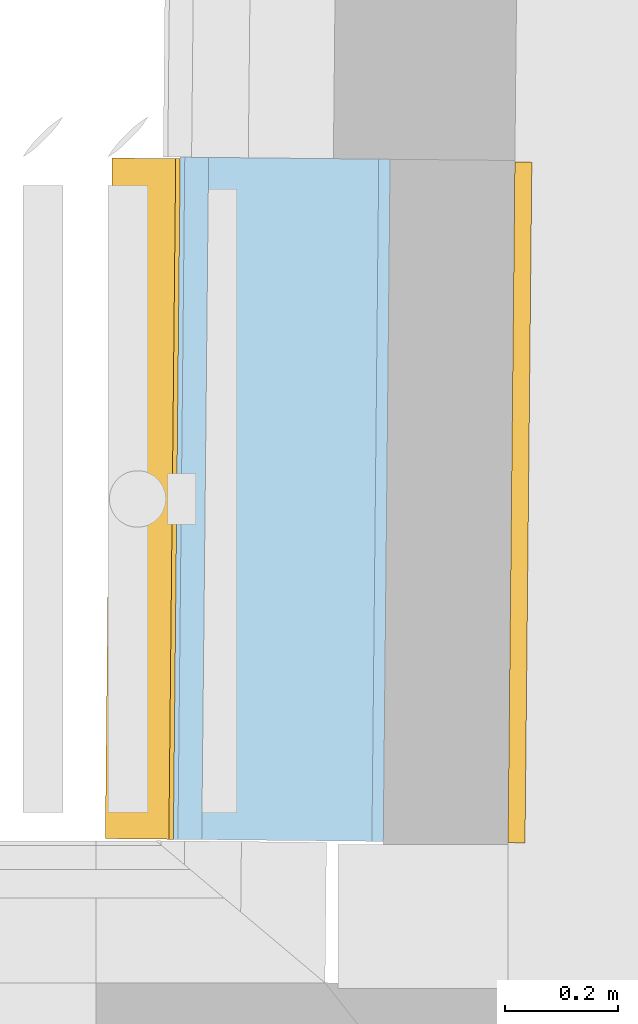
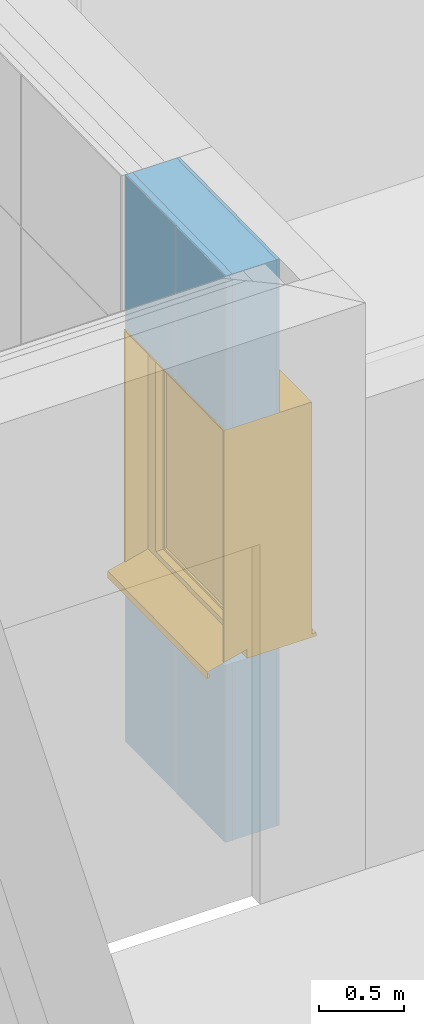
# One storey, part 131 of 418: 1 window, 2 openings, 1 element without a shape of its own, plus 4 elements that do not belong to this part.
"""IFC2X3 building model written with IfcOpenShell, lengths in millimetres."""

import ifcopenshell
import ifcopenshell.guid

model = None  # the IFC model being written
_history = None  # IfcOwnerHistory: only IFC2X3 demands one
_inside = {}  # id of a spatial element -> (the spatial element, [elements in it])
_under = {}  # id of a project, library or spatial element -> (it, [spatial elements below it])
_declared = {}  # id of a project -> (the project, [libraries it declares])
_typed = {}  # id of a type object -> (the type object, [elements of that type])
_made_of = {}  # id of a material, layer set ... -> (it, [elements and type objects made of it])


def new_model(schema):
    """Start an empty IFC model of exactly this schema.

    Asked for "IFC4X3", IfcOpenShell would pick the latest addendum, in which some entities
    have other attributes; the version numbers below select the first issue.
    IFC2X3 requires an IfcOwnerHistory on every rooted entity: one is made here for all.
    """
    global model, _history
    if schema == "IFC4X3":
        model = ifcopenshell.file(schema_version=(4, 3, 0, 0))
    else:
        model = ifcopenshell.file(schema=schema)
    _inside.clear()
    _under.clear()
    _declared.clear()
    _typed.clear()
    _made_of.clear()
    _history = None
    if model.schema == "IFC2X3":
        org = make("IfcOrganization", Name="unknown")
        user = make(
            "IfcPersonAndOrganization",
            ThePerson=make("IfcPerson", FamilyName="unknown"),
            TheOrganization=org,
        )
        app = make(
            "IfcApplication",
            ApplicationDeveloper=org,
            Version="unknown",
            ApplicationFullName="unknown",
            ApplicationIdentifier="unknown",
        )
        _history = make(
            "IfcOwnerHistory",
            OwningUser=user,
            OwningApplication=app,
            ChangeAction="ADDED",
            CreationDate=0,
        )
    return model


def make(cls, **values):
    """One entity of the class cls with the attributes given. An attribute that is None is left unset."""
    return model.create_entity(
        cls, **{name: value for name, value in values.items() if value is not None}
    )


def entity(cls, *values):
    """Any entity or typed value of the class cls, its attributes in the order of the schema. None: left unset."""
    e = model.create_entity(cls)
    for i, value in enumerate(values):
        if value is not None:
            e[i] = value
    return e


def rooted(cls, **values):
    """An entity with a GlobalId (a new one), such as an element, a storey or a relation."""
    return make(cls, GlobalId=ifcopenshell.guid.new(), OwnerHistory=_history, **values)


def si_unit(unit_type, name, prefix=None):
    """IfcSIUnit, for example si_unit("LENGTHUNIT", "METRE", prefix="MILLI")."""
    return make("IfcSIUnit", UnitType=unit_type, Prefix=prefix, Name=name)


def converted_unit(unit_type, name, factor, base, dimensions=None, offset=None):
    """IfcConversionBasedUnit, such as the inch: factor (a typed value) times the base unit."""
    return make(
        "IfcConversionBasedUnit"
        if offset is None
        else "IfcConversionBasedUnitWithOffset",
        ConversionOffset=offset,
        Dimensions=None
        if dimensions is None
        else entity("IfcDimensionalExponents", *dimensions),
        UnitType=unit_type,
        Name=name,
        ConversionFactor=make(
            "IfcMeasureWithUnit", ValueComponent=factor, UnitComponent=base
        ),
    )


def derived_unit(unit_type, elements):
    """IfcDerivedUnit: a product of units, each with its exponent."""
    return make(
        "IfcDerivedUnit",
        Elements=[
            make("IfcDerivedUnitElement", Unit=unit, Exponent=power)
            for unit, power in elements
        ],
        UnitType=unit_type,
    )


def money_unit(currency):
    """IfcMonetaryUnit."""
    return make("IfcMonetaryUnit", Currency=currency)


def assignment(units):
    """IfcUnitAssignment: the units of a project."""
    return None if units is None else make("IfcUnitAssignment", Units=units)


def point(xyz):
    """IfcCartesianPoint."""
    return None if xyz is None else make("IfcCartesianPoint", Coordinates=xyz)


def direction(xyz):
    """IfcDirection."""
    return None if xyz is None else make("IfcDirection", DirectionRatios=xyz)


def frame(location, z_axis=None, x_axis=None):
    """IfcAxis2Placement3D, a coordinate frame: its origin and axes. An axis left out is left unset."""
    return make(
        "IfcAxis2Placement3D",
        Location=point(location),
        Axis=direction(z_axis),
        RefDirection=direction(x_axis),
    )


def frame_2d(location, x_axis=None):
    """IfcAxis2Placement2D, a coordinate frame in the plane: its origin and x axis."""
    return make(
        "IfcAxis2Placement2D", Location=point(location), RefDirection=direction(x_axis)
    )


def origin_with_axes():
    """The frame at (0, 0, 0) with the z axis (0, 0, 1) and the x axis (1, 0, 0) written out."""
    return frame((0.0, 0.0, 0.0), z_axis=(0.0, 0.0, 1.0), x_axis=(1.0, 0.0, 0.0))


def origin_2d_with_axis():
    """The frame at (0, 0) in the plane with the x axis (1, 0) written out."""
    return frame_2d((0.0, 0.0), x_axis=(1.0, 0.0))


def place(relative_to, where):
    """IfcLocalPlacement: puts the frame where relative to a parent placement (None: the world)."""
    return make(
        "IfcLocalPlacement", PlacementRelTo=relative_to, RelativePlacement=where
    )


def context(
    kind, dimensions, precision=None, world=None, true_north=None, identifier=None
):
    """IfcGeometricRepresentationContext, for example the 3D "Model" context."""
    return make(
        "IfcGeometricRepresentationContext",
        ContextIdentifier=identifier,
        ContextType=kind,
        CoordinateSpaceDimension=dimensions,
        Precision=precision,
        WorldCoordinateSystem=world,
        TrueNorth=true_north,
    )


def subcontext(parent, identifier, kind, view, scale=None):
    """IfcGeometricRepresentationSubContext, for example "Body" below "Model"."""
    return make(
        "IfcGeometricRepresentationSubContext",
        ContextIdentifier=identifier,
        ContextType=kind,
        ParentContext=parent,
        TargetScale=scale,
        TargetView=view,
    )


def project(units=None, contexts=None):
    """IfcProject with its units and contexts."""
    return rooted(
        "IfcProject",
        Name="project",
        RepresentationContexts=contexts,
        UnitsInContext=assignment(units),
    )


def spatial(cls, under=None, at=None, **own):
    """A site, building, storey or space (cls), placed at a placement, below another one or the project."""
    s = rooted(cls, ObjectPlacement=at, **own)
    if under is not None:
        _under.setdefault(under.id(), (under, []))[1].append(s)
    return s


def polyline(points):
    """IfcPolyline through the points."""
    return make("IfcPolyline", Points=[point(p) for p in points])


def profile(cls, at=None, kind="AREA", **sizes):
    """A parametric profile (cls). Its sizes go by their IFC names, for example OverallWidth=200.0."""
    return make(cls, ProfileType=kind, Position=at, **sizes)


def rectangle(**sizes):
    """IfcRectangleProfileDef."""
    return profile("IfcRectangleProfileDef", **sizes)


def outline(outer, holes=None, kind="AREA"):
    """IfcArbitraryClosedProfileDef: a profile drawn as a closed curve; with holes, ...WithVoids."""
    if holes is None:
        return make("IfcArbitraryClosedProfileDef", ProfileType=kind, OuterCurve=outer)
    return make(
        "IfcArbitraryProfileDefWithVoids",
        ProfileType=kind,
        OuterCurve=outer,
        InnerCurves=holes,
    )


def extrude(swept, where, along, depth):
    """IfcExtrudedAreaSolid: the profile swept, set in the frame where, extruded along a direction by depth."""
    return make(
        "IfcExtrudedAreaSolid",
        SweptArea=swept,
        Position=where,
        ExtrudedDirection=direction(along),
        Depth=depth,
    )


def faces_of(points, faces, orient=None, outer=None):
    """IfcFace entities. A face is a list of loops; a loop is a list of indices into points, from 0.

    orient and outer hold one flag for each loop. By default every Orientation is true, the
    first loop of a face is its IfcFaceOuterBound and the others are IfcFaceBound.
    """
    made = []
    for i, loops in enumerate(faces):
        bounds = []
        for j, loop in enumerate(loops):
            is_outer = j == 0 if outer is None else outer[i][j]
            bounds.append(
                make(
                    "IfcFaceOuterBound" if is_outer else "IfcFaceBound",
                    Bound=make("IfcPolyLoop", Polygon=[points[k] for k in loop]),
                    Orientation=True if orient is None else orient[i][j],
                )
            )
        made.append(make("IfcFace", Bounds=bounds))
    return made


def open_shell(faces, orient=None, outer=None):
    """The faces of one IfcOpenShell. surface_model builds it on its shared points."""
    return ("IfcOpenShell", faces, orient, outer)


def faceted_brep(points, faces, orient=None, outer=None, voids=None):
    """IfcFacetedBrep: a solid bounded by flat faces; with voids (closed shells), ...WithVoids."""
    shared = [point(p) for p in points]
    hull = make("IfcClosedShell", CfsFaces=faces_of(shared, faces, orient, outer))
    if voids is None:
        return make("IfcFacetedBrep", Outer=hull)
    return make(
        "IfcFacetedBrepWithVoids",
        Outer=hull,
        Voids=[
            make(cls, CfsFaces=faces_of(shared, fs, o, b)) for cls, fs, o, b in voids
        ],
    )


def surface_model(cls, points, shells):
    """IfcFaceBasedSurfaceModel or IfcShellBasedSurfaceModel (cls): surfaces that need not close."""
    shared = [point(p) for p in points]
    made = [make(c, CfsFaces=faces_of(shared, fs, o, b)) for c, fs, o, b in shells]
    if cls == "IfcFaceBasedSurfaceModel":
        return make(cls, FbsmFaces=made)
    return make(cls, SbsmBoundary=made)


def shape(context_of_items, identifier, shape_type, items):
    """IfcShapeRepresentation: the items that make up one representation, for example the "Body"."""
    return make(
        "IfcShapeRepresentation",
        ContextOfItems=context_of_items,
        RepresentationIdentifier=identifier,
        RepresentationType=shape_type,
        Items=items,
    )


def material(Name=None, Category=None):
    """IfcMaterial."""
    return make("IfcMaterial", Name=Name, Category=Category)


def made_of(thing, what):
    """Note that an element or type object is made of a material, layer set ...; save() writes the relation."""
    if what is not None:
        _made_of.setdefault(what.id(), (what, []))[1].append(thing)
    return thing


def type_object(cls, material=None, **own):
    """A type object (cls), such as IfcWallType, which elements share."""
    return made_of(rooted(cls, **own), material)


def element(
    cls,
    number,
    at=None,
    inside=None,
    cuts=None,
    type_object=None,
    material=None,
    context=None,
    identifier="Body",
    shape_type=None,
    held_by="IfcProductDefinitionShape",
    body=None,
    shapes=None,
    **own,
):
    """One element of the class cls, such as IfcWall. Its Tag is "e" and its number.

    at: its placement. inside: the storey or other place that contains it. cuts: it is an
    opening in that element (IfcRelVoidsElement). A single representation is given by context,
    identifier, shape_type and body (its items); several are given by shapes. held_by: the class
    of the entity that holds the representations. save() writes the other relations.
    """
    e = rooted(cls, Tag="e%d" % number, ObjectPlacement=at, **own)
    if body is not None:
        shapes = [shape(context, identifier, shape_type, body)]
    if shapes is not None:
        e.Representation = make(held_by, Representations=shapes)
    if inside is not None:
        _inside.setdefault(inside.id(), (inside, []))[1].append(e)
    if cuts is not None:
        rooted(
            "IfcRelVoidsElement", RelatingBuildingElement=cuts, RelatedOpeningElement=e
        )
    if type_object is not None:
        _typed.setdefault(type_object.id(), (type_object, []))[1].append(e)
    return made_of(e, material)


def fill(opening, filler):
    """IfcRelFillsElement: the door or window that sits in an opening."""
    return rooted(
        "IfcRelFillsElement",
        RelatingOpeningElement=opening,
        RelatedBuildingElement=filler,
    )


def aggregate(whole, parts):
    """IfcRelAggregates: a whole, such as a stair, and the parts it consists of."""
    return rooted("IfcRelAggregates", RelatingObject=whole, RelatedObjects=parts)


def save(model, path):
    """Write the relations noted so far, then the file.

    IfcRelAggregates (storeys below a building ...), IfcRelContainedInSpatialStructure (elements
    in a storey), IfcRelDefinesByType, IfcRelAssociatesMaterial and IfcRelDeclares: one each for
    every whole, place, type object, material and project.
    """
    for whole, parts in _under.values():
        aggregate(whole, parts)
    for where, things in _inside.values():
        rooted(
            "IfcRelContainedInSpatialStructure",
            RelatedElements=things,
            RelatingStructure=where,
        )
    for kind, things in _typed.values():
        rooted("IfcRelDefinesByType", RelatedObjects=things, RelatingType=kind)
    for what, things in _made_of.values():
        rooted("IfcRelAssociatesMaterial", RelatedObjects=things, RelatingMaterial=what)
    for by, libraries in _declared.values():
        rooted("IfcRelDeclares", RelatingContext=by, RelatedDefinitions=libraries)
    model.write(path)


model = new_model("IFC2X3")

# Units and contexts
model_context = context("Model", 3, precision=0.01, world=origin_with_axes(), true_north=direction((0.0, 1.0)))
body_context = subcontext(model_context, "Body", "Model", "MODEL_VIEW")
ifc_project = project(units=[si_unit("LENGTHUNIT", "METRE", prefix="MILLI"), si_unit("AREAUNIT", "SQUARE_METRE"), si_unit("VOLUMEUNIT", "CUBIC_METRE"), converted_unit("PLANEANGLEUNIT", "DEGREE", entity("IfcPlaneAngleMeasure", 0.0174532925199), si_unit("PLANEANGLEUNIT", "RADIAN"), dimensions=[0, 0, 0, 0, 0, 0, 0]), si_unit("SOLIDANGLEUNIT", "STERADIAN"), money_unit("EUR"), converted_unit("TIMEUNIT", "Year", entity("IfcTimeMeasure", 31556926.0), si_unit("TIMEUNIT", "SECOND"), dimensions=[0, 0, 1, 0, 0, 0, 0]), si_unit("MASSUNIT", "GRAM", prefix="KILO"), si_unit("THERMODYNAMICTEMPERATUREUNIT", "DEGREE_CELSIUS"), si_unit("LUMINOUSINTENSITYUNIT", "LUMEN"), si_unit("ENERGYUNIT", "JOULE", prefix="MEGA"), derived_unit("THERMALCONDUCTANCEUNIT", [(si_unit("POWERUNIT", "WATT"), 1), (si_unit("LENGTHUNIT", "METRE"), -1), (si_unit("THERMODYNAMICTEMPERATUREUNIT", "KELVIN"), -1)]), derived_unit("SPECIFICHEATCAPACITYUNIT", [(si_unit("ENERGYUNIT", "JOULE"), 1), (si_unit("MASSUNIT", "GRAM", prefix="KILO"), -1), (si_unit("THERMODYNAMICTEMPERATUREUNIT", "KELVIN"), -1)]), derived_unit("MASSDENSITYUNIT", [(si_unit("MASSUNIT", "GRAM", prefix="KILO"), 1), (si_unit("VOLUMEUNIT", "CUBIC_METRE"), -1)])], contexts=[model_context])

# Site, building, storey
site_placement = place(None, origin_with_axes())
site = spatial("IfcSite", under=ifc_project, at=site_placement, Name="Paldiski mnt 245/1, Tallinn, Harjumaa", CompositionType="COMPLEX")
building_placement = place(site_placement, origin_with_axes())
building = spatial("IfcBuilding", under=site, at=building_placement, Name="RKAS Hoone üldnimetus (kasutust iseloomustav) -> IFC Project Manager -> SOLIBRI", CompositionType="ELEMENT")
storey_placement = place(building_placement, origin_with_axes())
storey = spatial("IfcBuildingStorey", under=building, at=storey_placement, Name="Esimene korrus", CompositionType="ELEMENT", Elevation=0.0)

# Window
window_style = type_object("IfcWindowStyle", Name="Window 23", ConstructionType="NOTDEFINED", OperationType="SINGLE_PANEL", ParameterTakesPrecedence=False, Sizeable=False)
wall_placement = place(storey_placement, frame((-59591.3382179, 31601.9729784, 0.0), z_axis=(0.0, 0.0, 1.0), x_axis=(-0.0100812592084, -0.999949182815, 0.0)))
opening_2_placement = place(wall_placement, frame((602.766178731, 0.0, 1280.0), z_axis=(0.0, 0.0, 1.0), x_axis=(1.0, 0.0, 0.0)))
window_placement = place(opening_2_placement, frame((-600.0, 0.0, 0.0), z_axis=(0.0, 0.0, 1.0), x_axis=(1.0, 0.0, 0.0)))
window = element("IfcWindow", 1, at=window_placement, inside=storey, type_object=window_style, Name="A-07", ObjectType="WINDOW", OverallHeight=1700.0, OverallWidth=1200.0, context=body_context, shape_type="SurfaceModel", body=[
    surface_model("IfcShellBasedSurfaceModel", [(1200.0, -221.0, 75.0), (0.0, -221.0, 75.0), (0.0, -221.0, 65.0), (1200.0, -221.0, 65.0), (0.0, -490.0, -7.0), (1200.0, -490.0, -7.0), (0.0, -490.0, -57.0), (1200.0, -490.0, -57.0), (0.0, -470.0, -37.0), (1200.0, -470.0, -37.0)], [open_shell([[[0, 1, 2, 3]], [[3, 2, 4, 5]], [[5, 4, 6, 7]], [[7, 6, 8, 9]]])]),
    faceted_brep([(0.0, -135.0, 0.0), (0.0, -135.0, 25.0), (0.0, 0.0, 25.0), (0.0, 0.0, 0.0), (1200.0, -135.0, 0.0), (1200.0, -135.0, 25.0), (1200.0, 0.0, 25.0), (1200.0, 250.0, 25.0), (0.0, 250.0, 25.0), (0.0, 250.0, 0.0), (1200.0, 250.0, 0.0), (1200.0, 0.0, 0.0)], [[[0, 1, 2, 3]], [[4, 5, 1, 0]], [[1, 5, 6, 7, 8, 2]], [[3, 2, 8, 9]], [[0, 3, 9, 10, 11, 4]], [[11, 6, 5, 4]], [[10, 7, 6, 11]], [[9, 8, 7, 10]]]),
    faceted_brep([(1200.0, -135.0, 25.0), (1200.0, -135.0, 1700.0), (1174.0, -135.0, 1674.0), (1174.0, -135.0, 25.0), (1200.0, 0.0, 25.0), (1200.0, 0.0, 1700.0), (1174.0, 0.0, 1674.0), (1174.0, 0.0, 25.0)], [[[0, 1, 2, 3]], [[4, 5, 1, 0]], [[6, 2, 1, 5]], [[3, 2, 6, 7]], [[7, 4, 0, 3]], [[7, 6, 5, 4]]]),
    faceted_brep([(26.0, -135.0, 25.0), (26.0, -135.0, 1674.0), (0.0, -135.0, 1700.0), (0.0, -135.0, 25.0), (26.0, 0.0, 25.0), (26.0, 0.0, 1674.0), (0.0, 0.0, 1700.0), (0.0, 0.0, 25.0)], [[[0, 1, 2, 3]], [[4, 5, 1, 0]], [[6, 2, 1, 5]], [[3, 2, 6, 7]], [[7, 4, 0, 3]], [[7, 6, 5, 4]]]),
    faceted_brep([(1174.0, -135.0, 1674.0), (26.0, -135.0, 1674.0), (26.0, 0.0, 1674.0), (1174.0, 0.0, 1674.0), (1200.0, -135.0, 1700.0), (0.0, -135.0, 1700.0), (0.0, 0.0, 1700.0), (1200.0, 0.0, 1700.0)], [[[0, 1, 2, 3]], [[0, 4, 5, 1]], [[1, 5, 6, 2]], [[3, 2, 6, 7]], [[4, 0, 3, 7]], [[5, 4, 7, 6]]]),
    faceted_brep([(1200.0, 0.0, 25.0), (1200.0, 0.0, 1700.0), (1174.0, 0.0, 1674.0), (1174.0, 0.0, 25.0), (1200.0, 220.0, 25.0), (1200.0, 220.0, 1700.0), (1174.0, 220.0, 1674.0), (1174.0, 220.0, 25.0)], [[[0, 1, 2, 3]], [[4, 5, 1, 0]], [[5, 6, 2, 1]], [[3, 2, 6, 7]], [[7, 4, 0, 3]], [[7, 6, 5, 4]]]),
    faceted_brep([(26.0, 0.0, 25.0), (26.0, 0.0, 1674.0), (0.0, 0.0, 1700.0), (0.0, 0.0, 25.0), (26.0, 220.0, 25.0), (26.0, 220.0, 1674.0), (0.0, 220.0, 1700.0), (0.0, 220.0, 25.0)], [[[0, 1, 2, 3]], [[4, 5, 1, 0]], [[5, 6, 2, 1]], [[3, 2, 6, 7]], [[7, 4, 0, 3]], [[7, 6, 5, 4]]]),
    faceted_brep([(1200.0, 220.0, 1700.0), (1200.0, 0.0, 1700.0), (1174.0, 0.0, 1674.0), (1174.0, 220.0, 1674.0), (0.0, 220.0, 1700.0), (0.0, 0.0, 1700.0), (26.0, 0.0, 1674.0), (26.0, 220.0, 1674.0)], [[[0, 1, 2, 3]], [[4, 5, 1, 0]], [[1, 5, 6, 2]], [[3, 2, 6, 7]], [[0, 3, 7, 4]], [[7, 6, 5, 4]]]),
    faceted_brep([(1192.0, -370.0, 25.1189591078), (1192.0, -370.0, 1692.0), (1192.0, -220.0, 1692.0), (1192.0, -220.0, 75.0), (1192.0, -221.0, 75.0), (1192.0, -221.0, 65.0), (1200.0, -370.0, 25.1189591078), (1200.0, -370.0, 1700.0), (1200.0, -220.0, 1700.0), (1200.0, -220.0, 75.0), (1200.0, -221.0, 75.0), (1200.0, -221.0, 65.0)], [[[0, 1, 2, 3, 4, 5]], [[6, 7, 1, 0]], [[8, 2, 1, 7]], [[3, 2, 8, 9]], [[3, 9, 10, 4]], [[4, 10, 11, 5]], [[5, 11, 6, 0]], [[11, 10, 9, 8, 7, 6]]]),
    faceted_brep([(0.0, -370.0, 25.1189591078), (0.0, -370.0, 1700.0), (0.0, -220.0, 1700.0), (0.0, -220.0, 75.0), (0.0, -221.0, 75.0), (0.0, -221.0, 65.0), (8.0, -370.0, 25.1189591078), (8.0, -370.0, 1692.0), (8.0, -220.0, 1692.0), (8.0, -220.0, 75.0), (8.0, -221.0, 75.0), (8.0, -221.0, 65.0)], [[[0, 1, 2, 3, 4, 5]], [[6, 7, 1, 0]], [[8, 2, 1, 7]], [[3, 2, 8, 9]], [[3, 9, 10, 4]], [[4, 10, 11, 5]], [[5, 11, 6, 0]], [[11, 10, 9, 8, 7, 6]]]),
    faceted_brep([(1200.0, -220.0, 1700.0), (1200.0, -370.0, 1700.0), (1192.0, -370.0, 1692.0), (1192.0, -220.0, 1692.0), (0.0, -220.0, 1700.0), (0.0, -370.0, 1700.0), (8.0, -370.0, 1692.0), (8.0, -220.0, 1692.0)], [[[0, 1, 2, 3]], [[4, 5, 1, 0]], [[1, 5, 6, 2]], [[3, 2, 6, 7]], [[0, 3, 7, 4]], [[7, 6, 5, 4]]]),
    faceted_brep([(1192.0, -378.0, 22.9776951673), (1192.0, -378.0, 1692.0), (1192.0, -370.0, 1692.0), (1192.0, -370.0, 25.1189591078), (1200.0, -378.0, 22.9776951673), (1200.0, -378.0, 1700.0), (1200.0, -370.0, 1700.0), (1200.0, -370.0, 25.1189591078)], [[[0, 1, 2, 3]], [[4, 5, 1, 0]], [[2, 1, 5, 6]], [[3, 2, 6, 7]], [[7, 4, 0, 3]], [[7, 6, 5, 4]]]),
    faceted_brep([(0.0, -378.0, 22.9776951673), (0.0, -378.0, 1700.0), (0.0, -370.0, 1700.0), (0.0, -370.0, 25.1189591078), (8.0, -378.0, 22.9776951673), (8.0, -378.0, 1692.0), (8.0, -370.0, 1692.0), (8.0, -370.0, 25.1189591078)], [[[0, 1, 2, 3]], [[4, 5, 1, 0]], [[2, 1, 5, 6]], [[3, 2, 6, 7]], [[7, 4, 0, 3]], [[7, 6, 5, 4]]]),
    faceted_brep([(1200.0, -378.0, 1700.0), (1192.0, -378.0, 1692.0), (1192.0, -370.0, 1692.0), (1200.0, -370.0, 1700.0), (0.0, -378.0, 1700.0), (8.0, -378.0, 1692.0), (8.0, -370.0, 1692.0), (0.0, -370.0, 1700.0)], [[[0, 1, 2, 3]], [[0, 4, 5, 1]], [[1, 5, 6, 2]], [[3, 2, 6, 7]], [[4, 0, 3, 7]], [[5, 4, 7, 6]]]),
    faceted_brep([(1100.0, -170.0, 1600.0), (1100.0, -220.0, 1600.0), (1200.0, -220.0, 1600.0), (1200.0, -170.0, 1600.0), (1100.0, -170.0, 100.0), (1100.0, -220.0, 100.0), (1200.0, -220.0, 100.0), (1200.0, -170.0, 100.0)], [[[0, 1, 2, 3]], [[4, 5, 1, 0]], [[2, 1, 5, 6]], [[3, 2, 6, 7]], [[4, 0, 3, 7]], [[7, 6, 5, 4]]]),
    faceted_brep([(100.0, -170.0, 100.0), (100.0, -220.0, 100.0), (0.0, -220.0, 100.0), (0.0, -170.0, 100.0), (100.0, -170.0, 1600.0), (100.0, -220.0, 1600.0), (0.0, -220.0, 1600.0), (0.0, -170.0, 1600.0)], [[[0, 1, 2, 3]], [[4, 5, 1, 0]], [[2, 1, 5, 6]], [[3, 2, 6, 7]], [[4, 0, 3, 7]], [[7, 6, 5, 4]]]),
    faceted_brep([(1100.0, -170.0, 100.0), (1100.0, -220.0, 100.0), (1200.0, -220.0, 100.0), (1200.0, -170.0, 100.0), (100.0, -170.0, 100.0), (100.0, -220.0, 100.0), (0.0, -220.0, 100.0), (0.0, -220.0, 0.0), (1200.0, -220.0, 0.0), (1200.0, -170.0, 0.0), (0.0, -170.0, 0.0), (0.0, -170.0, 100.0)], [[[0, 1, 2, 3]], [[4, 5, 1, 0]], [[2, 1, 5, 6, 7, 8]], [[3, 2, 8, 9]], [[4, 0, 3, 9, 10, 11]], [[11, 6, 5, 4]], [[10, 7, 6, 11]], [[9, 8, 7, 10]]]),
    faceted_brep([(100.0, -170.0, 1600.0), (100.0, -220.0, 1600.0), (0.0, -220.0, 1600.0), (0.0, -170.0, 1600.0), (1100.0, -170.0, 1600.0), (1100.0, -220.0, 1600.0), (1200.0, -220.0, 1600.0), (1200.0, -220.0, 1700.0), (0.0, -220.0, 1700.0), (0.0, -170.0, 1700.0), (1200.0, -170.0, 1700.0), (1200.0, -170.0, 1600.0)], [[[0, 1, 2, 3]], [[4, 5, 1, 0]], [[2, 1, 5, 6, 7, 8]], [[3, 2, 8, 9]], [[4, 0, 3, 9, 10, 11]], [[11, 6, 5, 4]], [[10, 7, 6, 11]], [[9, 8, 7, 10]]]),
    faceted_brep([(1135.0, -135.0, 100.0), (1135.0, -135.0, 1600.0), (1200.0, -135.0, 1600.0), (1200.0, -135.0, 100.0), (1135.0, -170.0, 1600.0), (1135.0, -170.0, 100.0), (1200.0, -170.0, 1600.0), (1200.0, -170.0, 100.0)], [[[0, 1, 2, 3]], [[4, 1, 0, 5]], [[1, 4, 6, 2]], [[2, 6, 7, 3]], [[5, 0, 3, 7]], [[4, 5, 7, 6]]]),
    faceted_brep([(65.0, -170.0, 1600.0), (65.0, -135.0, 1600.0), (0.0, -135.0, 1600.0), (0.0, -170.0, 1600.0), (65.0, -135.0, 100.0), (65.0, -170.0, 100.0), (0.0, -135.0, 100.0), (0.0, -170.0, 100.0)], [[[0, 1, 2, 3]], [[4, 1, 0, 5]], [[1, 4, 6, 2]], [[6, 7, 3, 2]], [[5, 0, 3, 7]], [[4, 5, 7, 6]]]),
    faceted_brep([(65.0, -170.0, 100.0), (65.0, -135.0, 100.0), (0.0, -135.0, 100.0), (0.0, -170.0, 100.0), (65.0, -135.0, 65.0), (65.0, -170.0, 65.0), (1135.0, -135.0, 65.0), (1135.0, -135.0, 100.0), (1200.0, -135.0, 100.0), (1200.0, -135.0, 0.0), (0.0, -135.0, 0.0), (0.0, -170.0, 0.0), (1200.0, -170.0, 0.0), (1200.0, -170.0, 100.0), (1135.0, -170.0, 100.0), (1135.0, -170.0, 65.0)], [[[0, 1, 2, 3]], [[4, 1, 0, 5]], [[6, 7, 8, 9, 10, 2, 1, 4]], [[10, 11, 3, 2]], [[5, 0, 3, 11, 12, 13, 14, 15]], [[6, 4, 5, 15]], [[14, 7, 6, 15]], [[7, 14, 13, 8]], [[8, 13, 12, 9]], [[9, 12, 11, 10]]]),
    faceted_brep([(1135.0, -135.0, 1600.0), (1135.0, -135.0, 1635.0), (65.0, -135.0, 1635.0), (65.0, -135.0, 1600.0), (0.0, -135.0, 1600.0), (0.0, -135.0, 1700.0), (1200.0, -135.0, 1700.0), (1200.0, -135.0, 1600.0), (1135.0, -170.0, 1600.0), (1135.0, -170.0, 1635.0), (65.0, -170.0, 1635.0), (65.0, -170.0, 1600.0), (0.0, -170.0, 1600.0), (0.0, -170.0, 1700.0), (1200.0, -170.0, 1700.0), (1200.0, -170.0, 1600.0)], [[[0, 1, 2, 3, 4, 5, 6, 7]], [[1, 0, 8, 9]], [[2, 1, 9, 10]], [[3, 2, 10, 11]], [[3, 11, 12, 4]], [[4, 12, 13, 5]], [[5, 13, 14, 6]], [[6, 14, 15, 7]], [[8, 0, 7, 15]], [[9, 8, 15, 14, 13, 12, 11, 10]]]),
    faceted_brep([(74.0, -120.0, 877.0), (75.3397459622, -120.0, 882.0), (75.3397459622, -108.0, 882.0), (74.0, -108.0, 877.0), (74.0, -120.0, 823.0), (75.3397459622, -120.0, 818.0), (79.0, -120.0, 814.339745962), (84.0, -120.0, 813.0), (96.0, -120.0, 813.0), (101.0, -120.0, 814.339745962), (104.660254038, -120.0, 818.0), (106.0, -120.0, 823.0), (106.0, -120.0, 877.0), (104.660254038, -120.0, 882.0), (101.0, -120.0, 885.660254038), (96.0, -120.0, 887.0), (84.0, -120.0, 887.0), (79.0, -120.0, 885.660254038), (79.0, -108.0, 885.660254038), (84.0, -108.0, 887.0), (96.0, -108.0, 887.0), (101.0, -108.0, 885.660254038), (104.660254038, -108.0, 882.0), (106.0, -108.0, 877.0), (106.0, -108.0, 823.0), (104.660254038, -108.0, 818.0), (101.0, -108.0, 814.339745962), (96.0, -108.0, 813.0), (84.0, -108.0, 813.0), (79.0, -108.0, 814.339745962), (75.3397459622, -108.0, 818.0), (74.0, -108.0, 823.0)], [[[0, 1, 2, 3]], [[0, 4, 5, 6, 7, 8, 9, 10, 11, 12, 13, 14, 15, 16, 17, 1]], [[1, 17, 18, 2]], [[3, 2, 18, 19, 20, 21, 22, 23, 24, 25, 26, 27, 28, 29, 30, 31]], [[4, 0, 3, 31]], [[5, 4, 31, 30]], [[6, 5, 30, 29]], [[7, 6, 29, 28]], [[8, 7, 28, 27]], [[9, 8, 27, 26]], [[10, 9, 26, 25]], [[11, 10, 25, 24]], [[12, 11, 24, 23]], [[13, 12, 23, 22]], [[14, 13, 22, 21]], [[15, 14, 21, 20]], [[16, 15, 20, 19]], [[17, 16, 19, 18]]]),
    faceted_brep([(90.0, -108.0, 863.5), (96.75, -108.0, 861.691342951), (96.75, -84.0, 861.691342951), (90.0, -84.0, 863.5), (83.25, -108.0, 861.691342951), (78.3086570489, -108.0, 856.75), (76.5, -108.0, 850.0), (78.3086570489, -108.0, 843.25), (83.25, -108.0, 838.308657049), (90.0, -108.0, 836.5), (96.75, -108.0, 838.308657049), (101.691342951, -108.0, 843.25), (103.5, -108.0, 850.0), (101.691342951, -108.0, 856.75), (101.691342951, -84.0, 856.75), (103.5, -84.0, 850.0), (101.691342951, -84.0, 843.25), (96.75, -84.0, 838.308657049), (90.0, -84.0, 836.5), (83.25, -84.0, 838.308657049), (78.3086570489, -84.0, 843.25), (76.5, -84.0, 850.0), (78.3086570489, -84.0, 856.75), (83.25, -84.0, 861.691342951)], [[[0, 1, 2, 3]], [[0, 4, 5, 6, 7, 8, 9, 10, 11, 12, 13, 1]], [[1, 13, 14, 2]], [[3, 2, 14, 15, 16, 17, 18, 19, 20, 21, 22, 23]], [[4, 0, 3, 23]], [[5, 4, 23, 22]], [[6, 5, 22, 21]], [[7, 6, 21, 20]], [[8, 7, 20, 19]], [[9, 8, 19, 18]], [[10, 9, 18, 17]], [[11, 10, 17, 16]], [[12, 11, 16, 15]], [[13, 12, 15, 14]]]),
    faceted_brep([(78.5, -84.0, 743.0), (90.0, -84.0, 740.0), (101.5, -84.0, 743.0), (103.5, -84.0, 746.0), (103.5, -84.0, 850.0), (101.691342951, -84.0, 856.75), (96.75, -84.0, 861.691342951), (90.0, -84.0, 863.5), (83.25, -84.0, 861.691342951), (78.3086570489, -84.0, 856.75), (76.5, -84.0, 850.0), (76.5, -84.0, 746.0), (78.4999999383, -76.0, 743.000000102), (89.9999999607, -76.0, 739.99999961), (101.499999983, -76.0, 743.000000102), (103.500000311, -76.0, 745.999999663), (103.500000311, -76.0, 849.999999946), (101.691343, -76.0, 856.749999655), (96.7499996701, -76.0, 861.691342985), (89.9999999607, -76.0, 863.500000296), (83.2500002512, -76.0, 861.691342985), (78.3086569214, -76.0, 856.749999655), (76.4999996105, -76.0, 849.999999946), (76.4999996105, -76.0, 745.999999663), (80.3625374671, -73.0000004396, 745.614519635), (89.9999999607, -73.0000004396, 743.100398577), (99.6374624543, -73.0000004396, 745.614519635), (100.50000075, -73.0000004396, 746.908326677), (100.50000075, -73.0000004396, 849.605042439), (99.001617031, -73.0000004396, 855.197085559), (95.1970855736, -73.0000004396, 859.001617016), (89.9999999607, -73.0000004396, 860.394172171), (84.8029143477, -73.0000004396, 859.001617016), (80.9983828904, -73.0000004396, 855.197085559), (79.4999991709, -73.0000004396, 849.605042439), (79.4999991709, -73.0000004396, 746.908326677)], [[[0, 1, 2, 3, 4, 5, 6, 7, 8, 9, 10, 11]], [[1, 0, 12, 13]], [[2, 1, 13, 14]], [[3, 2, 14, 15]], [[4, 3, 15, 16]], [[5, 4, 16, 17]], [[6, 5, 17, 18]], [[7, 6, 18, 19]], [[8, 7, 19, 20]], [[9, 8, 20, 21]], [[10, 9, 21, 22]], [[11, 10, 22, 23]], [[0, 11, 23, 12]], [[13, 12, 24, 25]], [[14, 13, 25, 26]], [[15, 14, 26, 27]], [[16, 15, 27, 28]], [[17, 16, 28, 29]], [[18, 17, 29, 30]], [[19, 18, 30, 31]], [[20, 19, 31, 32]], [[21, 20, 32, 33]], [[22, 21, 33, 34]], [[23, 22, 34, 35]], [[12, 23, 35, 24]], [[26, 25, 24, 35, 34, 33, 32, 31, 30, 29, 28, 27]]]),
    faceted_brep([(1085.0, -170.0, 1585.0), (1135.0, -170.0, 1585.0), (1135.0, -155.0, 1585.0), (1085.0, -155.0, 1585.0), (1085.0, -170.0, 115.0), (1135.0, -170.0, 115.0), (1135.0, -155.0, 115.0), (1085.0, -155.0, 115.0)], [[[0, 1, 2, 3]], [[0, 4, 5, 1]], [[1, 5, 6, 2]], [[3, 2, 6, 7]], [[4, 0, 3, 7]], [[5, 4, 7, 6]]]),
    faceted_brep([(115.0, -170.0, 115.0), (65.0, -170.0, 115.0), (65.0, -155.0, 115.0), (115.0, -155.0, 115.0), (115.0, -170.0, 1585.0), (65.0, -170.0, 1585.0), (65.0, -155.0, 1585.0), (115.0, -155.0, 1585.0)], [[[0, 1, 2, 3]], [[0, 4, 5, 1]], [[1, 5, 6, 2]], [[3, 2, 6, 7]], [[4, 0, 3, 7]], [[5, 4, 7, 6]]]),
    faceted_brep([(65.0, -170.0, 65.0), (65.0, -170.0, 115.0), (65.0, -155.0, 115.0), (65.0, -155.0, 65.0), (1135.0, -170.0, 65.0), (1135.0, -170.0, 115.0), (1085.0, -170.0, 115.0), (115.0, -170.0, 115.0), (115.0, -155.0, 115.0), (1085.0, -155.0, 115.0), (1135.0, -155.0, 115.0), (1135.0, -155.0, 65.0)], [[[0, 1, 2, 3]], [[0, 4, 5, 6, 7, 1]], [[1, 7, 8, 2]], [[3, 2, 8, 9, 10, 11]], [[4, 0, 3, 11]], [[5, 4, 11, 10]], [[6, 5, 10, 9]], [[7, 6, 9, 8]]]),
    faceted_brep([(1135.0, -170.0, 1635.0), (1135.0, -170.0, 1585.0), (1135.0, -155.0, 1585.0), (1135.0, -155.0, 1635.0), (65.0, -170.0, 1635.0), (65.0, -170.0, 1585.0), (115.0, -170.0, 1585.0), (1085.0, -170.0, 1585.0), (1085.0, -155.0, 1585.0), (115.0, -155.0, 1585.0), (65.0, -155.0, 1585.0), (65.0, -155.0, 1635.0)], [[[0, 1, 2, 3]], [[0, 4, 5, 6, 7, 1]], [[1, 7, 8, 2]], [[3, 2, 8, 9, 10, 11]], [[4, 0, 3, 11]], [[5, 4, 11, 10]], [[6, 5, 10, 9]], [[7, 6, 9, 8]]]),
    faceted_brep([(1085.0, -155.0, 1585.0), (1135.0, -155.0, 1585.0), (1135.0, -120.0, 1585.0), (1085.0, -120.0, 1585.0), (1085.0, -155.0, 115.0), (1135.0, -155.0, 115.0), (1135.0, -120.0, 115.0), (1085.0, -120.0, 115.0)], [[[0, 1, 2, 3]], [[0, 4, 5, 1]], [[1, 5, 6, 2]], [[3, 2, 6, 7]], [[4, 0, 3, 7]], [[5, 4, 7, 6]]]),
    faceted_brep([(115.0, -155.0, 115.0), (65.0, -155.0, 115.0), (65.0, -120.0, 115.0), (115.0, -120.0, 115.0), (115.0, -155.0, 1585.0), (65.0, -155.0, 1585.0), (65.0, -120.0, 1585.0), (115.0, -120.0, 1585.0)], [[[0, 1, 2, 3]], [[0, 4, 5, 1]], [[1, 5, 6, 2]], [[3, 2, 6, 7]], [[4, 0, 3, 7]], [[5, 4, 7, 6]]]),
    faceted_brep([(65.0, -155.0, 65.0), (65.0, -155.0, 115.0), (65.0, -120.0, 115.0), (65.0, -120.0, 65.0), (1135.0, -155.0, 65.0), (1135.0, -155.0, 115.0), (1085.0, -155.0, 115.0), (115.0, -155.0, 115.0), (115.0, -120.0, 115.0), (1085.0, -120.0, 115.0), (1135.0, -120.0, 115.0), (1135.0, -120.0, 65.0)], [[[0, 1, 2, 3]], [[0, 4, 5, 6, 7, 1]], [[1, 7, 8, 2]], [[3, 2, 8, 9, 10, 11]], [[4, 0, 3, 11]], [[5, 4, 11, 10]], [[6, 5, 10, 9]], [[7, 6, 9, 8]]]),
    faceted_brep([(1135.0, -155.0, 1635.0), (1135.0, -155.0, 1585.0), (1135.0, -120.0, 1585.0), (1135.0, -120.0, 1635.0), (65.0, -155.0, 1635.0), (65.0, -155.0, 1585.0), (115.0, -155.0, 1585.0), (1085.0, -155.0, 1585.0), (1085.0, -120.0, 1585.0), (115.0, -120.0, 1585.0), (65.0, -120.0, 1585.0), (65.0, -120.0, 1635.0)], [[[0, 1, 2, 3]], [[0, 4, 5, 6, 7, 1]], [[1, 7, 8, 2]], [[3, 2, 8, 9, 10, 11]], [[4, 0, 3, 11]], [[5, 4, 11, 10]], [[6, 5, 10, 9]], [[7, 6, 9, 8]]]),
    surface_model("IfcShellBasedSurfaceModel", [(1085.0, -155.0, 115.0), (1085.0, -155.0, 1585.0), (115.0, -155.0, 1585.0), (115.0, -155.0, 115.0)], [open_shell([[[0, 1, 2, 3]]])]),
    surface_model("IfcShellBasedSurfaceModel", [(1085.0, -135.0, 115.0), (115.0, -135.0, 115.0), (115.0, -135.0, 1585.0), (1085.0, -135.0, 1585.0)], [open_shell([[[0, 1, 2, 3]]])]),
])

# Wall, openings
wall_type = type_object("IfcWallType", Name="VS-05D_uued_kihid 370", PredefinedType="NOTDEFINED")
wall = element("IfcWall", 2, at=wall_placement, inside=storey, type_object=wall_type, Name="VS-05")
opening_1_placement = place(wall_placement, frame((606.766178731, 0.0, 0.0), z_axis=(0.0, 0.0, 1.0), x_axis=(1.0, 0.0, 0.0)))
element("IfcOpeningElement", 3, at=opening_1_placement, cuts=wall, Name="Cembrit fassaadiplaadi vuuk", context=body_context, shape_type="SweptSolid", body=[
    extrude(outline(polyline([(-3.99999999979, 0.0), (4.0000000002, 0.0), (4.0000000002, 4090.0), (-3.99999999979, 4090.0), (-3.99999999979, 0.0)])), frame((2.0605739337e-10, -362.0, 0.0), z_axis=(0.0, 1.0, 0.0), x_axis=(-1.0, 0.0, 0.0)), (0.0, 0.0, -1.0), 378.0),
])
opening_2 = element("IfcOpeningElement", 4, at=opening_2_placement, cuts=wall, Name="A-07", context=body_context, shape_type="SweptSolid", body=[
    extrude(rectangle(XDim=1200.0, YDim=1700.0, at=origin_2d_with_axis()), frame((0.0, -220.0, 850.0), z_axis=(0.0, 1.0, 0.0), x_axis=(-1.0, 0.0, 0.0)), (0.0, 0.0, 1.0), 590.0),
    extrude(rectangle(XDim=1200.0, YDim=1700.0, at=origin_2d_with_axis()), frame((0.0, -220.0, 850.0), z_axis=(0.0, -1.0, 0.0), x_axis=(-1.0, 0.0, 0.0)), (0.0, 0.0, 1.0), 520.0),
    extrude(rectangle(XDim=1200.0, YDim=1700.0, at=origin_2d_with_axis()), frame((0.0, 0.0, 850.0), z_axis=(0.0, 1.0, 0.0), x_axis=(-1.0, 0.0, 0.0)), (0.0, 0.0, 1.0), 520.0),
    extrude(rectangle(XDim=1200.0, YDim=1708.0, at=origin_2d_with_axis()), frame((0.0, -370.0, 846.0), z_axis=(0.0, -1.0, 0.0), x_axis=(-1.0, 0.0, 0.0)), (0.0, 0.0, 1.0), 520.0),
])

fill(opening_2, window)

# Building element part
ifc_material_1 = material(Name="Cembrit_C060")
building_element_part_1_placement = place(wall_placement, origin_with_axes())
building_element_part_1 = element("IfcBuildingElementPart", 5, at=building_element_part_1_placement, material=ifc_material_1, Name="Cembrit_C060", context=body_context, shape_type="SweptSolid", body=[
    extrude(outline(polyline([(0.0, -370.0), (1202.76617873, -370.0), (1202.76617873, -362.0), (0.0, -362.0), (0.0, -370.0)])), origin_with_axes(), (0.0, 0.0, 1.0), 4090.0),
])

ifc_material_2 = material(Name="VKR-06_Õhkvahe")
building_element_part_2_placement = place(wall_placement, origin_with_axes())
building_element_part_2 = element("IfcBuildingElementPart", 6, at=building_element_part_2_placement, material=ifc_material_2, Name="VKR-06_Õhkvahe", context=body_context, shape_type="SweptSolid", body=[
    extrude(outline(polyline([(0.0, -362.0), (1202.76617873, -362.0), (1202.76617873, -320.0), (0.0, -320.0), (0.0, -362.0)])), origin_with_axes(), (0.0, 0.0, 1.0), 4090.0),
])

ifc_material_3 = material(Name="Kingspan Kooltherm")
building_element_part_3_placement = place(wall_placement, origin_with_axes())
building_element_part_3 = element("IfcBuildingElementPart", 7, at=building_element_part_3_placement, material=ifc_material_3, Name="Kingspan Kooltherm", context=body_context, shape_type="SweptSolid", body=[
    extrude(outline(polyline([(0.0, -320.0), (1202.76617873, -320.0), (1202.76617873, -20.0), (0.0, -20.0), (0.0, -320.0)])), origin_with_axes(), (0.0, 0.0, 1.0), 4090.0),
])

ifc_material_4 = material(Name="Tasanduskrohv")
building_element_part_4_placement = place(wall_placement, origin_with_axes())
building_element_part_4 = element("IfcBuildingElementPart", 8, at=building_element_part_4_placement, material=ifc_material_4, Name="Tasanduskrohv", context=body_context, shape_type="SweptSolid", body=[
    extrude(outline(polyline([(0.0, -20.0), (1202.76617873, -20.0), (1202.76617873, 0.0), (0.0, 0.0), (0.0, -20.0)])), origin_with_axes(), (0.0, 0.0, 1.0), 4090.0),
])

aggregate(wall, [building_element_part_1, building_element_part_2, building_element_part_3, building_element_part_4])

save(model, "model.ifc")
